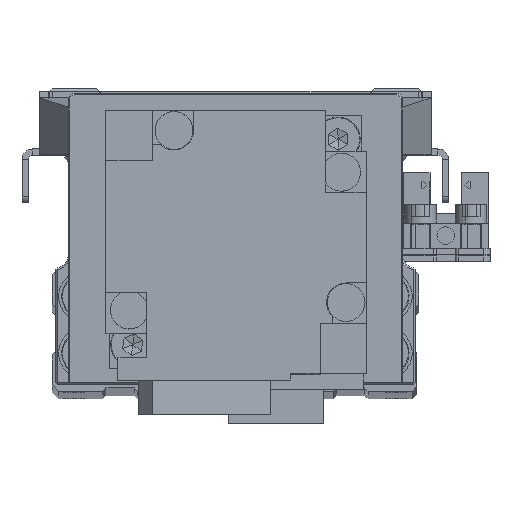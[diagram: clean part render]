
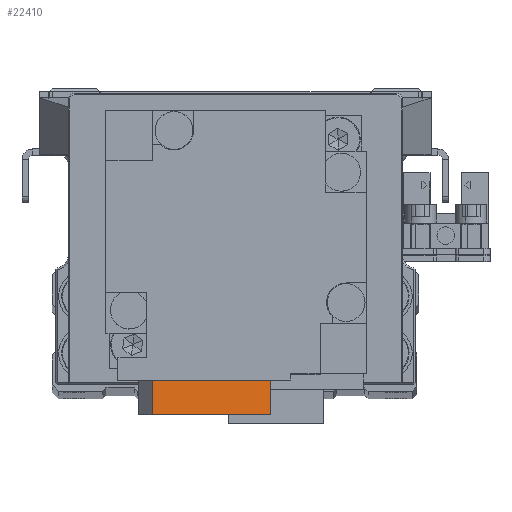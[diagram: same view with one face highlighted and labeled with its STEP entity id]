
A CAD part, top view. The second image highlights one B-rep face of the part: STEP entity #22410.
In plain terms, the highlighted planar face has unit normal (0.156, 0, 0.988) as drawn and (-0.156, 0, -0.988) by its records, which use the part's own axes.
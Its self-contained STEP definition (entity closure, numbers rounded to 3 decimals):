
#176 = VECTOR ( 'NONE', #1969, 1000. ) ;
#535 = LINE ( 'NONE', #13101, #28282 ) ;
#1029 = ORIENTED_EDGE ( 'NONE', *, *, #31303, .F. ) ;
#1055 = CARTESIAN_POINT ( 'NONE',  ( 13.183, -27.5, -79.096 ) ) ;
#1647 = VECTOR ( 'NONE', #34915, 1000. ) ;
#1969 = DIRECTION ( 'NONE',  ( 0.988, 0., -0.156 ) ) ;
#2028 = PLANE ( 'NONE',  #25810 ) ;
#2881 = EDGE_CURVE ( 'NONE', #25356, #16634, #9782, .T. ) ;
#7509 = LINE ( 'NONE', #20068, #18258 ) ;
#9603 = CARTESIAN_POINT ( 'NONE',  ( -5.583, -22., -76.124 ) ) ;
#9614 = ORIENTED_EDGE ( 'NONE', *, *, #2881, .T. ) ;
#9640 = CARTESIAN_POINT ( 'NONE',  ( 13.183, -22., -79.096 ) ) ;
#9782 = LINE ( 'NONE', #22349, #1647 ) ;
#11691 = EDGE_CURVE ( 'NONE', #36432, #27792, #17623, .T. ) ;
#13101 = CARTESIAN_POINT ( 'NONE',  ( -5.583, -24.75, -76.124 ) ) ;
#14587 = CARTESIAN_POINT ( 'NONE',  ( 3.8, -24.75, -77.61 ) ) ;
#16634 = VERTEX_POINT ( 'NONE', #9640 ) ;
#17623 = LINE ( 'NONE', #30176, #176 ) ;
#18258 = VECTOR ( 'NONE', #32606, 1000. ) ;
#20068 = CARTESIAN_POINT ( 'NONE',  ( 13.183, -24.75, -79.096 ) ) ;
#22065 = ORIENTED_EDGE ( 'NONE', *, *, #11691, .F. ) ;
#22349 = CARTESIAN_POINT ( 'NONE',  ( -5.583, -22., -76.124 ) ) ;
#22410 = ADVANCED_FACE ( 'NONE', ( #30229 ), #2028, .F. ) ;
#22865 = EDGE_LOOP ( 'NONE', ( #1029, #22065, #25284, #9614 ) ) ;
#25284 = ORIENTED_EDGE ( 'NONE', *, *, #39702, .F. ) ;
#25356 = VERTEX_POINT ( 'NONE', #9603 ) ;
#25661 = DIRECTION ( 'NONE',  ( 0., -1., 0. ) ) ;
#25810 = AXIS2_PLACEMENT_3D ( 'NONE', #14587, #27156, #39704 ) ;
#27156 = DIRECTION ( 'NONE',  ( 0.156, 0., 0.988 ) ) ;
#27792 = VERTEX_POINT ( 'NONE', #1055 ) ;
#28282 = VECTOR ( 'NONE', #25661, 1000. ) ;
#30176 = CARTESIAN_POINT ( 'NONE',  ( 3.8, -27.5, -77.61 ) ) ;
#30229 = FACE_OUTER_BOUND ( 'NONE', #22865, .T. ) ;
#31303 = EDGE_CURVE ( 'NONE', #27792, #16634, #7509, .T. ) ;
#32606 = DIRECTION ( 'NONE',  ( 0., 1., 0. ) ) ;
#34915 = DIRECTION ( 'NONE',  ( 0.988, 0., -0.156 ) ) ;
#36432 = VERTEX_POINT ( 'NONE', #38984 ) ;
#38984 = CARTESIAN_POINT ( 'NONE',  ( -5.583, -27.5, -76.124 ) ) ;
#39702 = EDGE_CURVE ( 'NONE', #25356, #36432, #535, .T. ) ;
#39704 = DIRECTION ( 'NONE',  ( 0.988, 0., -0.156 ) ) ;
